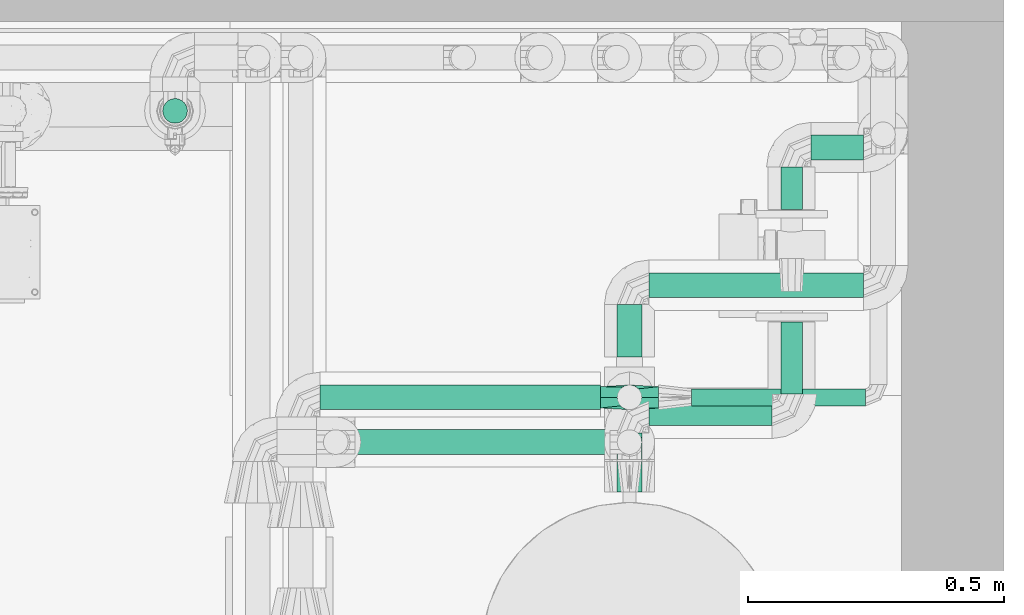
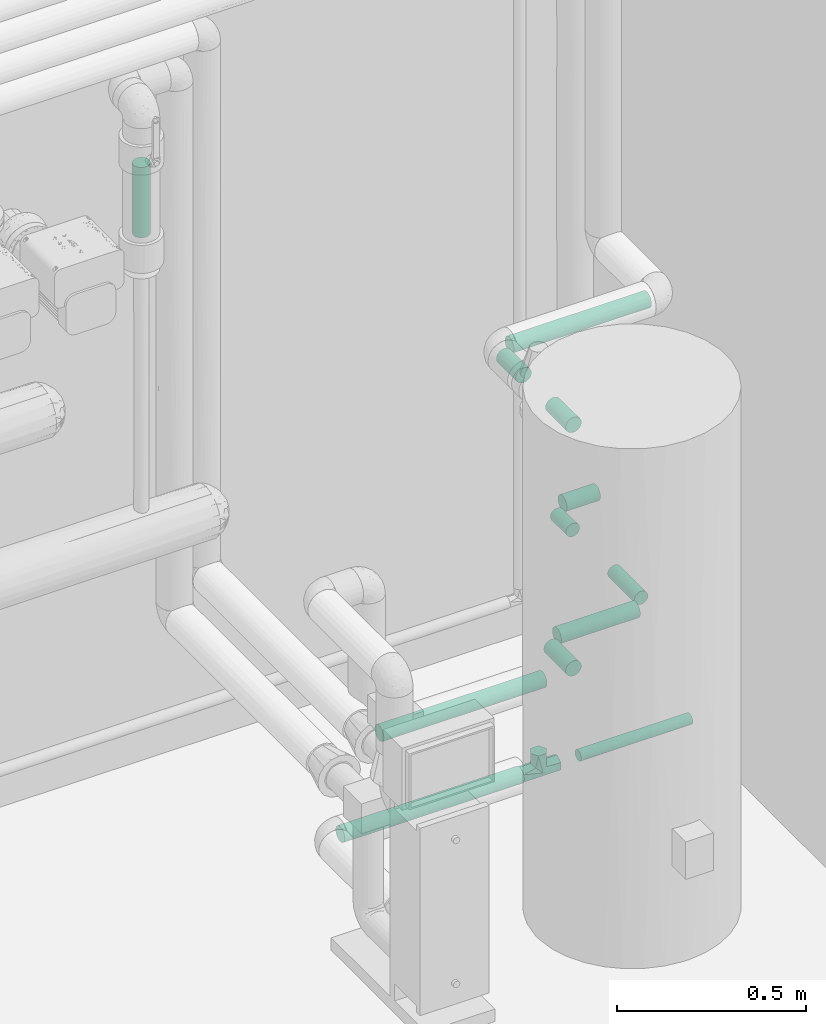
# One storey, part 86 of 94: 12 flow segments, 1 flow fitting.
"""IFC2X3 building model written with IfcOpenShell, lengths in millimetres."""

from ifc_helpers import new_model, entity, si_unit, converted_unit, derived_unit, direction, frame, frame_2d, origin, origin_2d_with_axis, place, context, subcontext, project, spatial, circle, extrude, faceted_brep, source, transform, mapped, material, type_object, type_shapes, element, save


model = new_model("IFC2X3")

# Units and contexts
model_context = context("Model", 3, precision=0.01, world=origin(), true_north=direction((6.123031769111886e-17, 1.0)))
body_context = subcontext(model_context, "Body", "Model", "MODEL_VIEW")
ifc_project = project(units=[si_unit("LENGTHUNIT", "METRE", prefix="MILLI"), si_unit("AREAUNIT", "SQUARE_METRE"), si_unit("VOLUMEUNIT", "CUBIC_METRE"), converted_unit("PLANEANGLEUNIT", "DEGREE", entity("IfcRatioMeasure", 0.017453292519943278), si_unit("PLANEANGLEUNIT", "RADIAN"), dimensions=[0, 0, 0, 0, 0, 0, 0]), si_unit("MASSUNIT", "GRAM", prefix="KILO"), derived_unit("MASSDENSITYUNIT", [(si_unit("MASSUNIT", "GRAM", prefix="KILO"), 1), (si_unit("LENGTHUNIT", "METRE"), -3)]), derived_unit("IONCONCENTRATIONUNIT", [(si_unit("MASSUNIT", "GRAM", prefix="KILO"), 1), (si_unit("LENGTHUNIT", "METRE"), -3)]), derived_unit("MOMENTOFINERTIAUNIT", [(si_unit("LENGTHUNIT", "METRE"), 4)]), si_unit("TIMEUNIT", "SECOND"), si_unit("FREQUENCYUNIT", "HERTZ"), si_unit("THERMODYNAMICTEMPERATUREUNIT", "DEGREE_CELSIUS"), derived_unit("THERMALTRANSMITTANCEUNIT", [(si_unit("MASSUNIT", "GRAM", prefix="KILO"), 1), (si_unit("THERMODYNAMICTEMPERATUREUNIT", "KELVIN"), -1), (si_unit("TIMEUNIT", "SECOND"), -3)]), derived_unit("THERMALCONDUCTANCEUNIT", [(si_unit("MASSUNIT", "GRAM", prefix="KILO"), 1), (si_unit("THERMODYNAMICTEMPERATUREUNIT", "KELVIN"), -1), (si_unit("TIMEUNIT", "SECOND"), -3), (si_unit("LENGTHUNIT", "METRE"), 1)]), derived_unit("VOLUMETRICFLOWRATEUNIT", [(si_unit("LENGTHUNIT", "METRE"), 3), (si_unit("TIMEUNIT", "SECOND"), -1)]), derived_unit("MASSFLOWRATEUNIT", [(si_unit("MASSUNIT", "GRAM", prefix="KILO"), 1), (si_unit("TIMEUNIT", "SECOND"), -1)]), derived_unit("ROTATIONALFREQUENCYUNIT", [(si_unit("TIMEUNIT", "SECOND"), -1)]), si_unit("ELECTRICCURRENTUNIT", "AMPERE"), si_unit("ELECTRICVOLTAGEUNIT", "VOLT"), si_unit("POWERUNIT", "WATT"), si_unit("FORCEUNIT", "NEWTON", prefix="KILO"), si_unit("ILLUMINANCEUNIT", "LUX"), si_unit("LUMINOUSFLUXUNIT", "LUMEN"), si_unit("LUMINOUSINTENSITYUNIT", "CANDELA"), derived_unit("USERDEFINED", [(si_unit("MASSUNIT", "GRAM", prefix="KILO"), -1), (si_unit("LENGTHUNIT", "METRE"), -2), (si_unit("TIMEUNIT", "SECOND"), 3), (si_unit("LUMINOUSFLUXUNIT", "LUMEN"), 1)]), derived_unit("USERDEFINED", [(si_unit("MASSUNIT", "GRAM", prefix="KILO"), 1), (si_unit("TIMEUNIT", "SECOND"), -3), (si_unit("LENGTHUNIT", "METRE"), 3), (si_unit("ELECTRICCURRENTUNIT", "AMPERE"), -2)]), derived_unit("SOUNDPOWERUNIT", [(si_unit("MASSUNIT", "GRAM", prefix="KILO"), 1), (si_unit("TIMEUNIT", "SECOND"), -3), (si_unit("LENGTHUNIT", "METRE"), 2)]), derived_unit("SOUNDPRESSUREUNIT", [(si_unit("MASSUNIT", "GRAM", prefix="KILO"), 1), (si_unit("LENGTHUNIT", "METRE"), -1), (si_unit("TIMEUNIT", "SECOND"), -2)]), derived_unit("LINEARVELOCITYUNIT", [(si_unit("LENGTHUNIT", "METRE"), 1), (si_unit("TIMEUNIT", "SECOND"), -1)]), si_unit("PRESSUREUNIT", "PASCAL"), derived_unit("USERDEFINED", [(si_unit("MASSUNIT", "GRAM", prefix="KILO"), 1), (si_unit("LENGTHUNIT", "METRE"), -2), (si_unit("TIMEUNIT", "SECOND"), -2)]), derived_unit("LINEARFORCEUNIT", [(si_unit("MASSUNIT", "GRAM", prefix="KILO"), 1), (si_unit("TIMEUNIT", "SECOND"), -2)]), derived_unit("PLANARFORCEUNIT", [(si_unit("MASSUNIT", "GRAM", prefix="KILO"), 1), (si_unit("LENGTHUNIT", "METRE"), -1), (si_unit("TIMEUNIT", "SECOND"), -2)]), derived_unit("SPECIFICHEATCAPACITYUNIT", [(si_unit("THERMODYNAMICTEMPERATUREUNIT", "KELVIN"), -1), (si_unit("LENGTHUNIT", "METRE"), 2), (si_unit("TIMEUNIT", "SECOND"), -2)]), derived_unit("HEATINGVALUEUNIT", [(si_unit("LENGTHUNIT", "METRE"), 2), (si_unit("TIMEUNIT", "SECOND"), -2)]), derived_unit("VAPORPERMEABILITYUNIT", [(si_unit("LENGTHUNIT", "METRE"), -1), (si_unit("TIMEUNIT", "SECOND"), 1)]), derived_unit("DYNAMICVISCOSITYUNIT", [(si_unit("MASSUNIT", "GRAM", prefix="KILO"), 1), (si_unit("TIMEUNIT", "SECOND"), -1), (si_unit("LENGTHUNIT", "METRE"), -1)]), derived_unit("THERMALEXPANSIONCOEFFICIENTUNIT", [(si_unit("THERMODYNAMICTEMPERATUREUNIT", "KELVIN"), -1)]), derived_unit("MODULUSOFELASTICITYUNIT", [(si_unit("MASSUNIT", "GRAM", prefix="KILO"), 1), (si_unit("LENGTHUNIT", "METRE"), -1), (si_unit("TIMEUNIT", "SECOND"), -2)]), derived_unit("ISOTHERMALMOISTURECAPACITYUNIT", [(si_unit("LENGTHUNIT", "METRE"), 3), (si_unit("MASSUNIT", "GRAM", prefix="KILO"), -1)]), derived_unit("MOISTUREDIFFUSIVITYUNIT", [(si_unit("TIMEUNIT", "SECOND"), -1), (si_unit("LENGTHUNIT", "METRE"), 2)])], contexts=[model_context])

# Site, building, storey
site_placement = place(None, origin())
site = spatial("IfcSite", under=ifc_project, at=site_placement, Name="Default", CompositionType="ELEMENT")
building_placement = place(site_placement, origin())
building = spatial("IfcBuilding", under=site, at=building_placement, CompositionType="ELEMENT")
storey_placement = place(building_placement, origin())
storey = spatial("IfcBuildingStorey", under=building, at=storey_placement, Name="Niveau 0", CompositionType="ELEMENT", Elevation=0.0)

# Flow segments
pipe_segment_type_1 = type_object("IfcPipeSegmentType", Name="Canalisation:Bride acier", PredefinedType="NOTDEFINED")
flow_segment_1_placement = place(storey_placement, origin())
element("IfcFlowSegment", 1, at=flow_segment_1_placement, inside=storey, type_object=pipe_segment_type_1, Name="Canalisation:Bride acier", ObjectType="Canalisation:Bride acier", context=body_context, shape_type="SweptSolid", body=[
    extrude(circle(Radius=24.13, at=origin_2d_with_axis()), frame((-6284.234460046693, 9177.684859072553, 1363.8700000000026), z_axis=(0.0, 1.0, 0.0), x_axis=(-1.0, 0.0, 0.0)), (0.0, 0.0, 1.0), 106.74839926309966),
])
flow_segment_2_placement = place(storey_placement, origin())
element("IfcFlowSegment", 2, at=flow_segment_2_placement, inside=storey, type_object=pipe_segment_type_1, Name="Canalisation:Bride acier", ObjectType="Canalisation:Bride acier", context=body_context, shape_type="SweptSolid", body=[
    extrude(circle(Radius=24.13, at=origin_2d_with_axis()), frame((-6246.234460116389, 9582.083842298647, 1363.8723014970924), z_axis=(1.0, 0.0, 6.056571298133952e-05), x_axis=(0.0, -1.0, 0.0)), (0.0, 0.0, 1.0), 419.3297586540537),
])
flow_segment_3_placement = place(storey_placement, origin())
element("IfcFlowSegment", 3, at=flow_segment_3_placement, inside=storey, type_object=pipe_segment_type_1, Name="Canalisation:Bride acier", ObjectType="Canalisation:Bride acier", context=body_context, shape_type="SweptSolid", body=[
    extrude(circle(Radius=24.13, at=frame_2d((8.417567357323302e-19, -6.75728933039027e-14), x_axis=(1.0, 0.0))), frame((-6246.234851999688, 9331.653816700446, 578.869209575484), z_axis=(0.999999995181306, 7.773407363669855e-07, 9.816712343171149e-05), x_axis=(7.773407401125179e-07, -1.0, 0.0)), (0.0, 0.0, 1.0), 240.82789046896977),
])
flow_segment_4_placement = place(storey_placement, origin())
element("IfcFlowSegment", 4, at=flow_segment_4_placement, inside=storey, type_object=pipe_segment_type_1, Name="Canalisation:Bride acier", ObjectType="Canalisation:Bride acier", context=body_context, shape_type="SweptSolid", body=[
    extrude(circle(Radius=24.13, at=origin_2d_with_axis()), frame((-6284.234460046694, 9177.684859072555, 578.8700000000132), z_axis=(-3.3798095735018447e-06, 1.0, 0.0), x_axis=(1.0, 3.3798095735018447e-06, 0.0)), (0.0, 0.0, 1.0), 115.96895762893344),
])
flow_segment_5_placement = place(storey_placement, origin())
element("IfcFlowSegment", 5, at=flow_segment_5_placement, inside=storey, type_object=pipe_segment_type_1, Name="Canalisation:Bride acier", ObjectType="Canalisation:Bride acier", context=body_context, shape_type="SweptSolid", body=[
    extrude(circle(Radius=24.13, at=frame_2d((0.0, -6.767919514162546e-14), x_axis=(1.0, 0.0))), frame((-5826.884977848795, 9850.97043952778, 578.8768360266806), z_axis=(-0.9999999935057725, 0.0, 0.00011396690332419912), x_axis=(0.0, 1.0, 0.0)), (0.0, 0.0, 1.0), 102.52249673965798),
])
flow_segment_6_placement = place(storey_placement, origin())
element("IfcFlowSegment", 6, at=flow_segment_6_placement, inside=storey, type_object=pipe_segment_type_1, Name="Canalisation:Bride acier", ObjectType="Canalisation:Bride acier", context=body_context, shape_type="SweptSolid", body=[
    extrude(circle(Radius=24.13, at=frame_2d((-1.0828671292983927e-12, -2.707167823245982e-13), x_axis=(1.0, 0.0))), frame((-6284.234460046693, 9441.433258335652, 1363.8699999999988), z_axis=(0.0, 1.0, 0.0), x_axis=(-1.0, 0.0, 0.0)), (0.0, 0.0, 1.0), 102.65058396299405),
])
flow_segment_7_placement = place(storey_placement, origin())
element("IfcFlowSegment", 7, at=flow_segment_7_placement, inside=storey, type_object=pipe_segment_type_1, Name="Canalisation:Bride acier", ObjectType="Canalisation:Bride acier", context=body_context, shape_type="SweptSolid", body=[
    extrude(circle(Radius=24.13, at=origin_2d_with_axis()), frame((-6820.137252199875, 9275.477679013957, 499.0), z_axis=(1.0, 0.0, 0.0), x_axis=(0.0, 1.0, 0.0)), (0.0, 0.0, 1.0), 497.9027921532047),
])
flow_segment_8_placement = place(storey_placement, origin())
element("IfcFlowSegment", 8, at=flow_segment_8_placement, inside=storey, type_object=pipe_segment_type_1, Name="Canalisation:Bride acier", ObjectType="Canalisation:Bride acier", context=body_context, shape_type="SweptSolid", body=[
    extrude(circle(Radius=21.082, at=origin_2d_with_axis()), frame((-5967.406992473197, 9510.257927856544, 578.8885936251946), z_axis=(0.0, -1.0, 6.11527323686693e-05), x_axis=(-1.0, 0.0, 0.0)), (0.0, 0.0, 1.0), 140.60389468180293),
])
flow_segment_9_placement = place(storey_placement, origin())
element("IfcFlowSegment", 9, at=flow_segment_9_placement, inside=storey, type_object=pipe_segment_type_1, Name="Canalisation:Bride acier", ObjectType="Canalisation:Bride acier", context=body_context, shape_type="SweptSolid", body=[
    extrude(circle(Radius=21.082, at=origin_2d_with_axis()), frame((-5967.407444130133, 9730.25792785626, 578.8824429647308), z_axis=(0.0, 0.9999999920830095, 0.00012583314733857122), x_axis=(1.0, 0.0, 0.0)), (0.0, 0.0, 1.0), 82.71251232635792),
])
flow_segment_10_placement = place(storey_placement, origin())
element("IfcFlowSegment", 10, at=flow_segment_10_placement, inside=storey, type_object=pipe_segment_type_1, Name="Canalisation:Bride acier", ObjectType="Canalisation:Bride acier", context=body_context, shape_type="SweptSolid", body=[
    extrude(circle(Radius=24.13, at=origin_2d_with_axis()), frame((-7172.145865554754, 9922.470546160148, 1842.7301626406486)), (0.0, 0.0, 1.0), 226.48731568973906),
])
pipe_segment_type_2 = type_object("IfcPipeSegmentType", Name="Canalisation:Standard", PredefinedType="NOTDEFINED")
flow_segment_11_placement = place(storey_placement, origin())
element("IfcFlowSegment", 11, at=flow_segment_11_placement, inside=storey, type_object=pipe_segment_type_2, Name="Canalisation:Standard", ObjectType="Canalisation:Standard", context=body_context, shape_type="SweptSolid", body=[
    extrude(circle(Radius=24.13, at=frame_2d((0.0, -1.6919798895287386e-14), x_axis=(1.0, 0.0))), frame((-6888.740682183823, 9362.933258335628, 144.0), z_axis=(1.0, 0.0, 0.0), x_axis=(0.0, -1.0, 0.0)), (0.0, 0.0, 1.0), 547.5062221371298),
])
flow_segment_12_placement = place(storey_placement, origin())
element("IfcFlowSegment", 12, at=flow_segment_12_placement, inside=storey, type_object=pipe_segment_type_2, Name="Canalisation:Standard", ObjectType="Canalisation:Standard", context=body_context, shape_type="SweptSolid", body=[
    extrude(circle(Radius=16.7005, at=frame_2d((0.0, -1.6919798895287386e-14), x_axis=(1.0, 0.0))), frame((-6163.234460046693, 9362.933258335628, 144.0), z_axis=(1.0, 0.0, 0.0), x_axis=(0.0, -1.0, 0.0)), (0.0, 0.0, 1.0), 340.20122064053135),
])

# Flow fitting
ifc_material = material(Name="<Unnamed>")
pipe_fitting_type = type_object("IfcPipeFittingType", Name="Té - Générique:Standard", PredefinedType="NOTDEFINED", material=ifc_material)
shared_shape = source(origin(), body_context, "Body", "Brep", [
    faceted_brep([(-57.0, -24.150000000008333, 0.0), (-57.0, -21.13125000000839, 5.228628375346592), (-57.0, -18.112500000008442, 10.457256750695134), (-57.0, -12.075000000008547, 20.9145135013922), (-57.0, 0.0, 20.91451350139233), (-57.0, 12.074999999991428, 20.914513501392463), (-57.0, 18.112499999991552, 10.457256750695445), (-57.0, 24.149999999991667, 0.0), (-57.0, 18.112499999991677, -10.45725675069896), (-57.0, 12.074999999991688, -20.91451350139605), (-57.0, 0.0, -20.914513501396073), (-57.0, -12.075000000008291, -20.914513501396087), (-57.0, -18.11250000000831, -10.457256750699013), (57.0, 24.149999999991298, 0.0), (57.0, 18.112499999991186, 10.457256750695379), (57.0, 12.074999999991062, 20.914513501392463), (57.0, 0.0, 20.91451350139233), (57.0, -12.075000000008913, 20.9145135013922), (57.0, -18.112500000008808, 10.457256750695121), (57.0, -24.150000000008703, 0.0), (57.0, -21.13125000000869, -5.228628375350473), (57.0, -18.112500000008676, -10.457256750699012), (57.0, -12.075000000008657, -20.914513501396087), (57.0, 0.0, -20.914513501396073), (57.0, 12.074999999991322, -20.91451350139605), (57.0, 19.810999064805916, -7.515370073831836), (20.83718491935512, -20.837184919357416, 8.308413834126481), (17.52436983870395, -17.524369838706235, 16.6168276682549), (0.0, 0.0, 24.14999999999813), (-24.149999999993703, -24.15000000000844, 0.0), (-20.07541040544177, -20.07541040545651, 7.677582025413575), (-13.535622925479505, -13.535622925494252, 20.000235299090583), (24.150000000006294, -24.150000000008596, 0.0), (-18.842811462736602, -18.842811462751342, 10.000117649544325), (20.075410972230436, -20.075410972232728, -7.677580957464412), (18.842811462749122, -18.842811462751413, -10.000117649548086), (13.535622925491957, -13.535622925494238, -20.000235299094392), (-20.837184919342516, -20.837184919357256, -8.308413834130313), (0.0, 0.0, -24.15000000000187), (-17.524369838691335, -17.524369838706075, -16.616827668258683), (-18.112499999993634, -57.0, -10.457256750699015), (-12.074999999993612, -57.0, -20.914513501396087), (0.0, -57.0, -20.914513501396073), (12.075000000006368, -57.0, -20.91451350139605), (19.81099920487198, -57.0, -7.515369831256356), (24.150000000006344, -57.0, 0.0), (18.11250000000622, -57.0, 10.45725675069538), (12.075000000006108, -57.0, 20.914513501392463), (0.0, -57.0, 20.91451350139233), (-12.074999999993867, -57.0, 20.9145135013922), (-19.810999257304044, -57.0, 7.515369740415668), (-24.149999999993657, -57.0, 0.0)], [[[0, 1, 2, 3, 4, 5, 6, 7, 8, 9, 10, 11, 12]], [[13, 14, 15, 16, 17, 18, 19, 20, 21, 22, 23, 24, 25]], [[26, 19, 18]], [[27, 18, 17]], [[28, 17, 16, 15]], [[29, 30, 1]], [[2, 31, 3]], [[19, 26, 32]], [[0, 29, 1]], [[18, 27, 26]], [[17, 28, 27]], [[15, 14, 13, 7, 6, 5]], [[30, 2, 1]], [[31, 4, 3]], [[31, 28, 4]], [[5, 28, 15]], [[2, 30, 33, 31]], [[28, 5, 4]], [[9, 8, 7, 13, 25, 24]], [[21, 34, 35, 36]], [[0, 37, 29]], [[9, 24, 38]], [[12, 39, 37]], [[10, 9, 38, 11]], [[34, 21, 20]], [[23, 22, 36]], [[32, 20, 19]], [[36, 22, 21]], [[39, 11, 38]], [[32, 34, 20]], [[12, 37, 0]], [[38, 24, 23]], [[39, 12, 11]], [[36, 38, 23]], [[40, 41, 42, 43, 44, 45, 46, 47, 48, 49, 50, 51]], [[33, 49, 31]], [[29, 51, 50]], [[50, 33, 30, 29]], [[31, 49, 48]], [[27, 47, 46]], [[32, 46, 45]], [[49, 33, 50]], [[31, 48, 28]], [[46, 32, 26, 27]], [[28, 48, 47]], [[28, 47, 27]], [[35, 43, 36]], [[38, 41, 39]], [[43, 35, 44]], [[44, 35, 34, 32]], [[36, 43, 42]], [[29, 40, 51]], [[32, 45, 44]], [[39, 41, 40]], [[36, 42, 38]], [[40, 29, 37, 39]], [[38, 42, 41]]]),
])
type_shapes(pipe_fitting_type, [shared_shape])
flow_fitting_placement = place(storey_placement, frame((-6284.234460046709, 9362.933258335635, 144.0), z_axis=(0.0, 1.0, 0.0), x_axis=(1.0, 0.0, 0.0)))
element("IfcFlowFitting", 13, at=flow_fitting_placement, inside=storey, type_object=pipe_fitting_type, material=ifc_material, Name="Té - Générique:Standard", ObjectType="Té - Générique:Standard", context=body_context, shape_type="MappedRepresentation", body=[
    mapped(shared_shape, transform((0.0, 0.0, 0.0), scale=1.0)),
])

save(model, "model.ifc")
